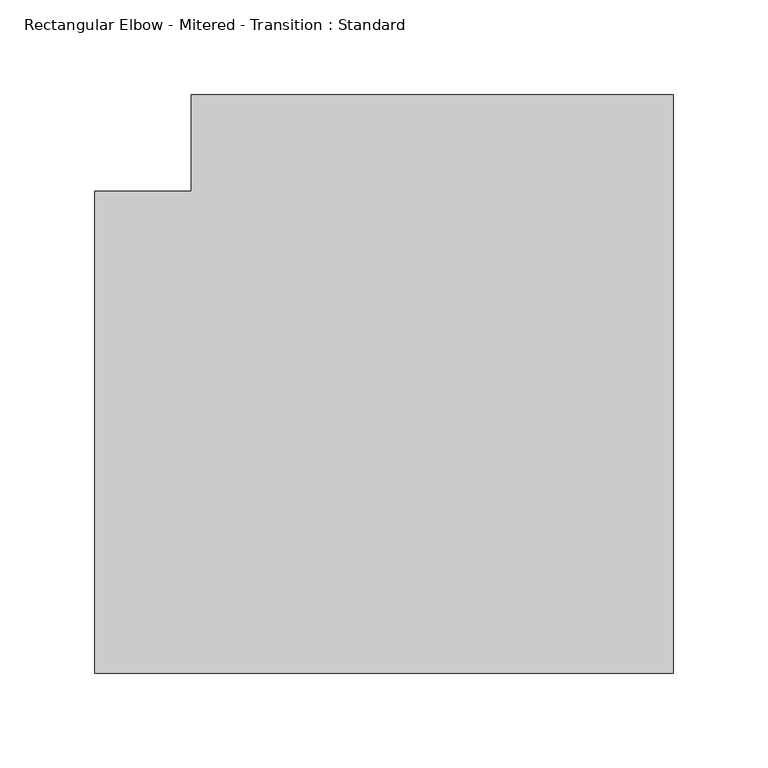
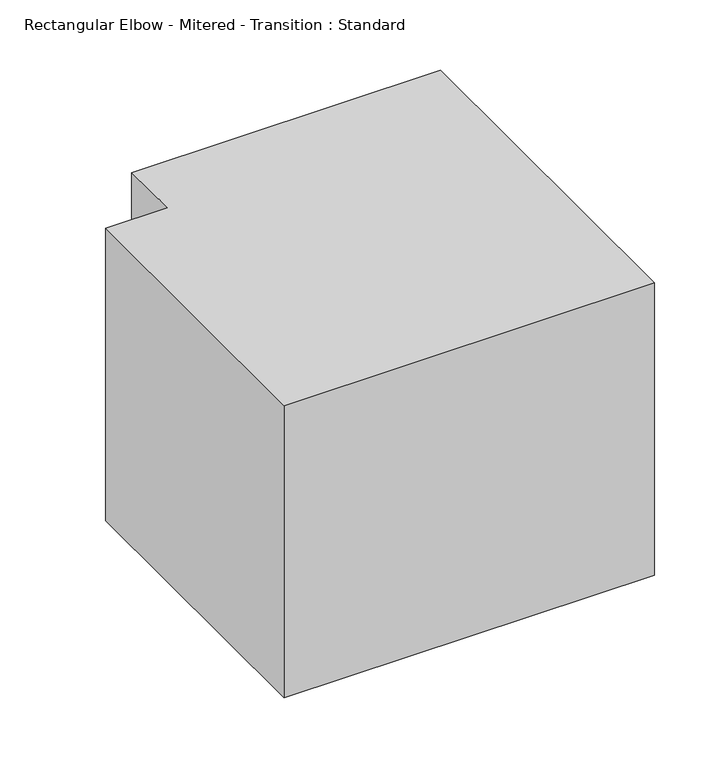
"""IFC4 building model written with IfcOpenShell, lengths in millimetres: duct fitting geometry, Rectangular Elbow - Mitered - Transition : Standard."""

from ifc_helpers import new_model, si_unit, frame, origin, place, context, project, spatial, polyline, outline, extrude, source, transform, mapped, element, save


def rectangular_elbow_mitered_transition_standard_35919474(model_context):
    return source(origin(), model_context, "Body", "SweptSolid", [
        extrude(outline(polyline([(-127.0, 127.0), (-127.0, 177.8), (127.0, 177.8), (127.0, -127.0), (-177.8, -127.0), (-177.8, 127.0), (-127.0, 127.0)])), frame((0.0, 0.0, -127.0), z_axis=(0.0, 0.0, 1.0), x_axis=(1.0, 0.0, 0.0)), (0.0, 0.0, 1.0), 254.0),
    ])


if __name__ == "__main__":
    model = new_model("IFC4")
    model_context = context("Model", 3, world=origin())
    ifc_project = project(units=[si_unit("LENGTHUNIT", "METRE", prefix="MILLI")], contexts=[model_context])
    site = spatial("IfcSite", under=ifc_project)
    building = spatial("IfcBuilding", under=site)
    placement = place(None, origin())
    rectangular_elbow_mitered_transition_standard_shape = rectangular_elbow_mitered_transition_standard_35919474(model_context)
    element("IfcDuctFitting", 1, ObjectType="Rectangular Elbow - Mitered - Transition : Standard", at=placement, inside=building, context=model_context, shape_type="MappedRepresentation", body=[
        mapped(rectangular_elbow_mitered_transition_standard_shape, transform((0.0, 0.0, 0.0), x_axis=(1.0, 0.0, 0.0), y_axis=(0.0, 1.0, 0.0), z_axis=(0.0, 0.0, 1.0))),
    ])
    save(model, "model.ifc")
